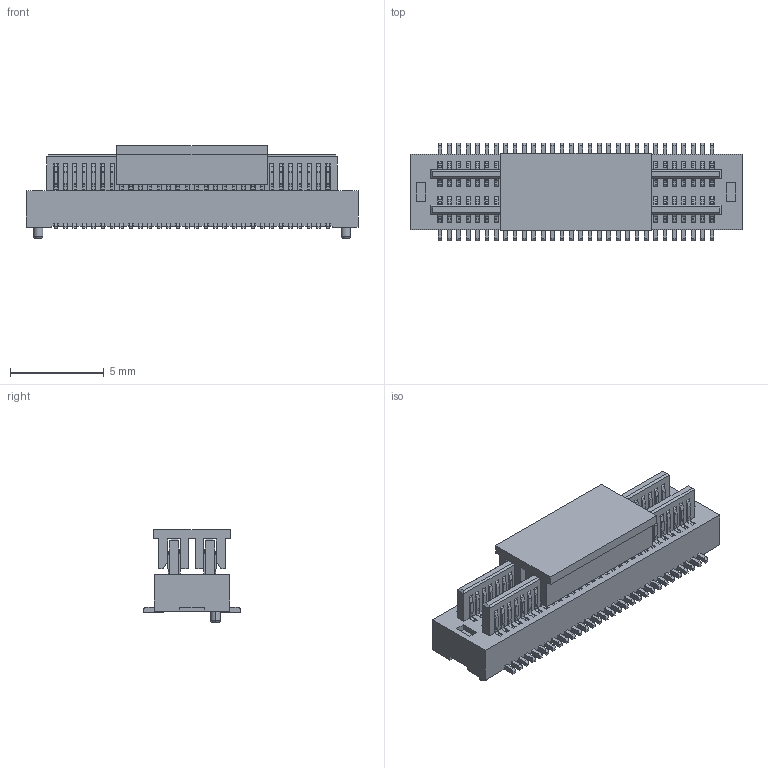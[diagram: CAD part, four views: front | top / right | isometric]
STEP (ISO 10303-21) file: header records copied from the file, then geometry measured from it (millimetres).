
FILE_DESCRIPTION(('CATIA V5 STEP Exchange'),'2;1');
FILE_NAME('F:\黄富鸿\板对板\PBB05\公座\H2.0\编带+盖\HC-PBB05-2-60-M-H2.0-G1-R-P-04（BTB0.5 双槽 公座 立贴 带柱 编带+盖）-HCTL.stp','2025-12-18T02:05:26+00:00',('none'),('none'),'CATIA Version 5 Release 20 GA (IN-10)','CATIA V5 STEP AP203','none');
FILE_SCHEMA(('CONFIG_CONTROL_DESIGN'));
Products named in the file (1): Part2
Bounding box: 17.7 x 5.2 x 4.95 mm (x, y, z)
Volume: 201.2 mm3; surface area: 1483.6 mm2
Topology: 62 solids, 62 shells, 3440 faces, 10518 edges, 6968 vertices
Faces by surface type: plane 2232, cylinder 1204, torus 4
Entity records: 100811 total; most frequent: ORIENTED_EDGE 21036, CARTESIAN_POINT 18708, DIRECTION 11280, EDGE_CURVE 10518, VECTOR 7862, LINE 7862, VERTEX_POINT 6968, EDGE_LOOP 3446
